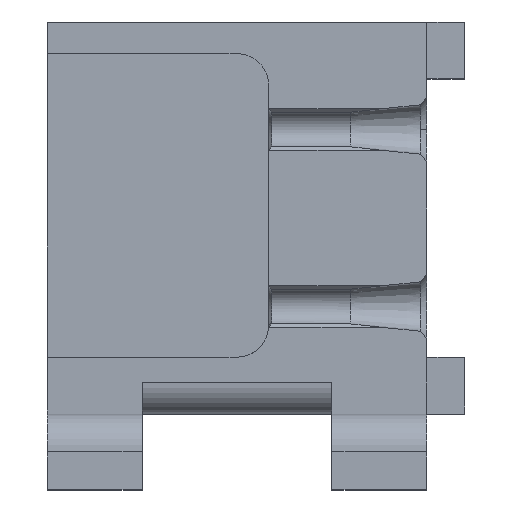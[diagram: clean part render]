
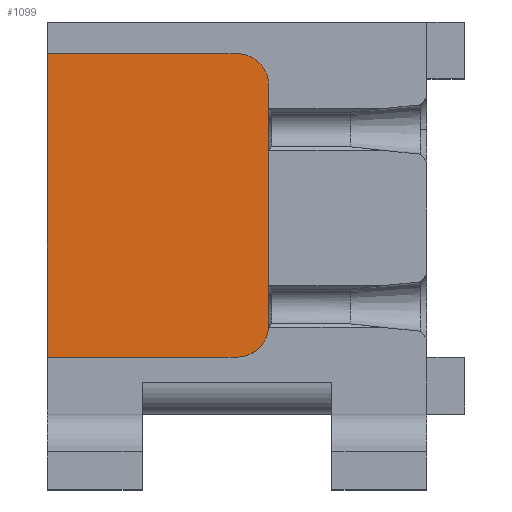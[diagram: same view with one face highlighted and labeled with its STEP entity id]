
A CAD part, top view. The second image highlights one B-rep face of the part: STEP entity #1099.
In plain terms, the highlighted planar face has unit normal (0, 0, 1).
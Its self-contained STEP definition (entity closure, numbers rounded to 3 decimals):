
#9 = CARTESIAN_POINT ( 'NONE',  ( 15., 37., -4. ) ) ;
#93 = CARTESIAN_POINT ( 'NONE',  ( -20., 37., -4. ) ) ;
#100 = ORIENTED_EDGE ( 'NONE', *, *, #1540, .T. ) ;
#114 = VERTEX_POINT ( 'NONE', #557 ) ;
#128 = EDGE_CURVE ( 'NONE', #933, #114, #155, .T. ) ;
#155 = LINE ( 'NONE', #2459, #1101 ) ;
#180 = EDGE_CURVE ( 'NONE', #114, #1760, #1526, .T. ) ;
#217 = DIRECTION ( 'NONE',  ( -1., 0., 0. ) ) ;
#267 = ORIENTED_EDGE ( 'NONE', *, *, #951, .T. ) ;
#270 = DIRECTION ( 'NONE',  ( 1., 0., 0. ) ) ;
#423 = CARTESIAN_POINT ( 'NONE',  ( -20., 37., -4. ) ) ;
#508 = CARTESIAN_POINT ( 'NONE',  ( 15., -6., -4. ) ) ;
#557 = CARTESIAN_POINT ( 'NONE',  ( 10., -11., -4. ) ) ;
#601 = DIRECTION ( 'NONE',  ( 0., 1., 0. ) ) ;
#638 = CARTESIAN_POINT ( 'NONE',  ( 15., 32., -4. ) ) ;
#666 = EDGE_CURVE ( 'NONE', #1760, #806, #1662, .T. ) ;
#729 = DIRECTION ( 'NONE',  ( 1., 0., 0. ) ) ;
#733 = EDGE_LOOP ( 'NONE', ( #2293, #1736, #100, #267, #994, #1296 ) ) ;
#806 = VERTEX_POINT ( 'NONE', #638 ) ;
#860 = PLANE ( 'NONE',  #2231 ) ;
#933 = VERTEX_POINT ( 'NONE', #1019 ) ;
#951 = EDGE_CURVE ( 'NONE', #2167, #933, #2532, .T. ) ;
#994 = ORIENTED_EDGE ( 'NONE', *, *, #128, .T. ) ;
#1019 = CARTESIAN_POINT ( 'NONE',  ( -20., -11., -4. ) ) ;
#1029 = DIRECTION ( 'NONE',  ( 0., -1., 0. ) ) ;
#1040 = CARTESIAN_POINT ( 'NONE',  ( 10., 32., -4. ) ) ;
#1058 = CIRCLE ( 'NONE', #2198, 5. ) ;
#1064 = VECTOR ( 'NONE', #601, 1000. ) ;
#1099 = ADVANCED_FACE ( 'NONE', ( #2288 ), #860, .T. ) ;
#1101 = VECTOR ( 'NONE', #729, 1000. ) ;
#1243 = DIRECTION ( 'NONE',  ( 1., 0., 0. ) ) ;
#1296 = ORIENTED_EDGE ( 'NONE', *, *, #180, .T. ) ;
#1330 = DIRECTION ( 'NONE',  ( 0., 0., 1. ) ) ;
#1423 = VERTEX_POINT ( 'NONE', #2151 ) ;
#1465 = CARTESIAN_POINT ( 'NONE',  ( 0., 0., -4. ) ) ;
#1477 = DIRECTION ( 'NONE',  ( 0., 0., 1. ) ) ;
#1511 = VECTOR ( 'NONE', #1029, 1000. ) ;
#1526 = CIRCLE ( 'NONE', #1967, 5. ) ;
#1540 = EDGE_CURVE ( 'NONE', #1423, #2167, #2494, .T. ) ;
#1611 = EDGE_CURVE ( 'NONE', #806, #1423, #1058, .T. ) ;
#1662 = LINE ( 'NONE', #2179, #1064 ) ;
#1708 = CARTESIAN_POINT ( 'NONE',  ( 10., -6., -4. ) ) ;
#1736 = ORIENTED_EDGE ( 'NONE', *, *, #1611, .T. ) ;
#1760 = VERTEX_POINT ( 'NONE', #508 ) ;
#1967 = AXIS2_PLACEMENT_3D ( 'NONE', #1708, #1330, #2295 ) ;
#2151 = CARTESIAN_POINT ( 'NONE',  ( 10., 37., -4. ) ) ;
#2167 = VERTEX_POINT ( 'NONE', #93 ) ;
#2179 = CARTESIAN_POINT ( 'NONE',  ( 15., -11., -4. ) ) ;
#2198 = AXIS2_PLACEMENT_3D ( 'NONE', #1040, #2409, #1243 ) ;
#2231 = AXIS2_PLACEMENT_3D ( 'NONE', #1465, #1477, #270 ) ;
#2288 = FACE_OUTER_BOUND ( 'NONE', #733, .T. ) ;
#2293 = ORIENTED_EDGE ( 'NONE', *, *, #666, .T. ) ;
#2295 = DIRECTION ( 'NONE',  ( 1., 0., 0. ) ) ;
#2409 = DIRECTION ( 'NONE',  ( 0., 0., 1. ) ) ;
#2431 = VECTOR ( 'NONE', #217, 1000. ) ;
#2459 = CARTESIAN_POINT ( 'NONE',  ( -20., -11., -4. ) ) ;
#2494 = LINE ( 'NONE', #9, #2431 ) ;
#2532 = LINE ( 'NONE', #423, #1511 ) ;
